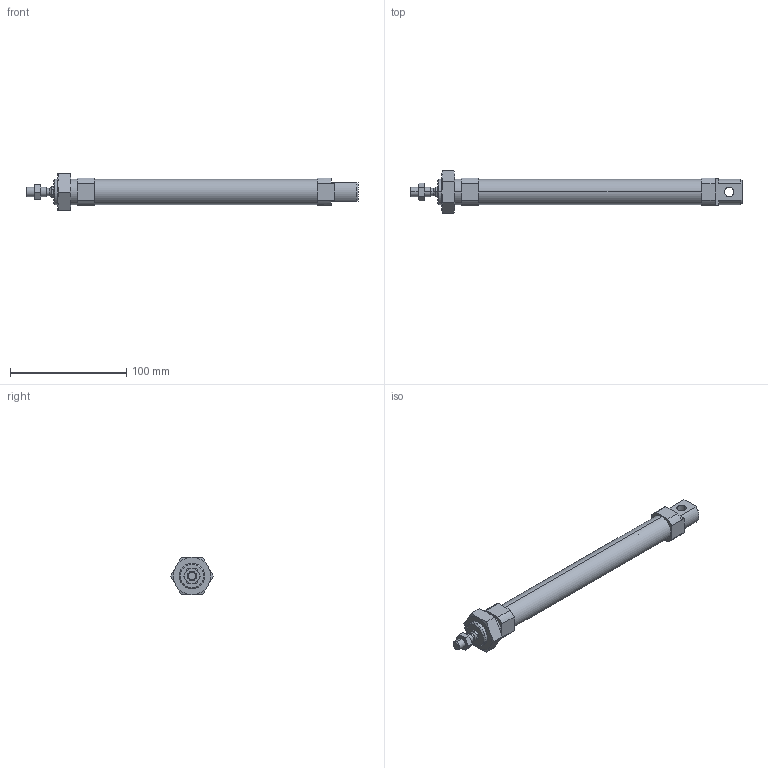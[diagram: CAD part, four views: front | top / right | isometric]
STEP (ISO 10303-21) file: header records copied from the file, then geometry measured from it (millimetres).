
FILE_DESCRIPTION (( 'STEP AP203' ), '1' );
FILE_NAME ('CSMK20-160.STEP', '2020-04-02T10:48:48', ( '' ), ( '' ), 'SwSTEP 2.0', 'SolidWorks 2019', '' );
FILE_SCHEMA (( 'CONFIG_CONTROL_DESIGN' ));
Length unit declared in the file: millimetre
Products named in the file (1): CSMK20-160
Bounding box: 286 x 36.95 x 32 mm (x, y, z)
Volume: 65170.3 mm3; surface area: 42674.4 mm2
Topology: 4 solids, 4 shells, 133 faces, 306 edges, 187 vertices
Faces by surface type: plane 53, cone 48, cylinder 32
Entity records: 4251 total; most frequent: CARTESIAN_POINT 1191, DIRECTION 626, ORIENTED_EDGE 608, EDGE_CURVE 304, AXIS2_PLACEMENT_3D 246, VERTEX_POINT 187, EDGE_LOOP 149, VECTOR 134
